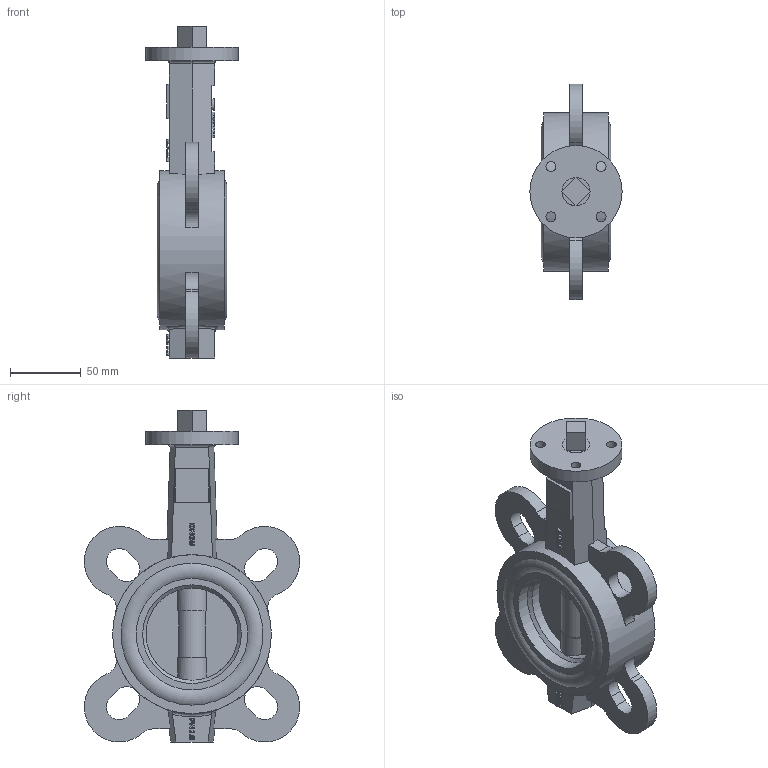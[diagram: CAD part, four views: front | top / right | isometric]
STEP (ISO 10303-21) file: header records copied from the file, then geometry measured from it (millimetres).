
FILE_DESCRIPTION(('STEP AP242'), '1');
FILE_NAME('Ïîâîðîòíûé çàòâîð ïîä ýëåêòðîïðèâîä', '', ('UNSPECIFIED'), ('UNSPECIFIED'), 'C3D Converter', 'C3D Toolkit', '');
FILE_SCHEMA(('AP242_MANAGED_MODEL_BASED_3D_ENGINEERING_MIM_LF { 1 0 10303 442 1 1 4 }'));
Length unit declared in the file: millimetre
Products named in the file (6): П
Assembly tree (6 placements, depth 2):
  (unnamed)
    (unnamed)
    П  x2
    (unnamed)
    (unnamed)
    (unnamed)
Bounding box: 65 x 151.87 x 234 mm (x, y, z)
Volume: 517669.1 mm3; surface area: 150573.8 mm2
Topology: 6 solids, 6 shells, 425 faces, 1140 edges, 750 vertices
Faces by surface type: plane 197, extrusion 151, cylinder 65, bspline 4, torus 4, cone 4
Full cylindrical faces by diameter (mm): 7 x4, 8.223 x1, 14 x6, 19.799 x5, 21.66 x4, 65 x2, 69.56 x2, 78.68 x2, 89.34 x4, 100 x4, 112 x1
Entity records: 17721 total; most frequent: CARTESIAN_POINT 5510, ORIENTED_EDGE 2180, DIRECTION 1582, EDGE_CURVE 1090, VERTEX_POINT 745, VECTOR 738, LINE 587, EDGE_LOOP 517
